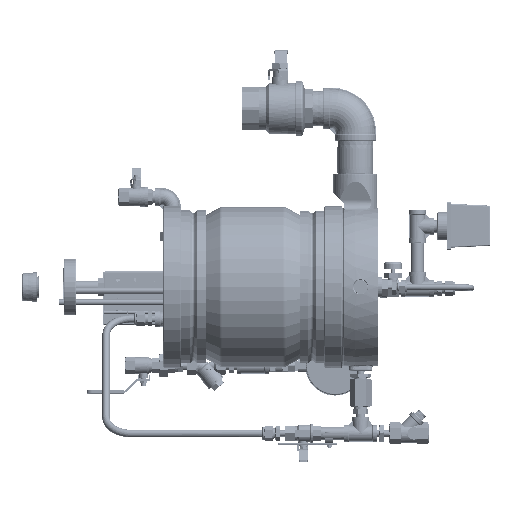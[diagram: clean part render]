
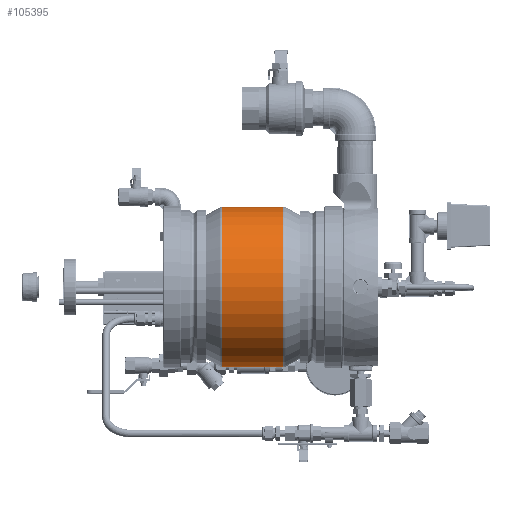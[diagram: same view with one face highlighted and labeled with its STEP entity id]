
A CAD part, top view. The second image highlights one B-rep face of the part: STEP entity #105395.
In plain terms, the highlighted cylindrical face has radius 135 mm (diameter 270 mm), a partial arc.
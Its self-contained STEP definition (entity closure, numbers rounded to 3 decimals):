
#2945=FACE_BOUND('',#18514,.T.);
#7801=B_SPLINE_CURVE_WITH_KNOTS('',3,(#167509,#167510,#167511,#167512,#167513,
#167514,#167515,#167516,#167517,#167518,#167519,#167520,#167521,#167522,
#167523,#167524,#167525,#167526),.UNSPECIFIED.,.F.,.F.,(4,2,2,2,2,2,2,2,
4),(2.111,2.639,3.167,3.694,
4.222,4.75,5.278,5.805,6.333),
 .UNSPECIFIED.);
#7802=B_SPLINE_CURVE_WITH_KNOTS('',3,(#167529,#167530,#167531,#167532,#167533,
#167534,#167535,#167536,#167537,#167538,#167539,#167540,#167541,#167542,
#167543,#167544,#167545,#167546,#167547),.UNSPECIFIED.,.F.,.F.,(4,2,2,2,
3,2,2,2,4),(6.333,6.861,7.389,7.917,
8.444,8.972,9.5,10.028,10.555),
 .UNSPECIFIED.);
#11991=FACE_OUTER_BOUND('',#18513,.T.);
#18513=EDGE_LOOP('',(#78836,#78837,#78838,#78839,#78840,#78841,#78842,#78843,
#78844,#78845,#78846,#78847));
#18514=EDGE_LOOP('',(#78848,#78849,#78850,#78851,#78852,#78853));
#24763=CIRCLE('',#113951,135.);
#24764=CIRCLE('',#113952,135.);
#24767=CIRCLE('',#113957,135.);
#24768=CIRCLE('',#113958,135.);
#29875=LINE('',#167448,#37002);
#29876=LINE('',#167450,#37003);
#29877=LINE('',#167452,#37004);
#29878=LINE('',#167454,#37005);
#29879=LINE('',#167456,#37006);
#29880=LINE('',#167458,#37007);
#29881=LINE('',#167460,#37008);
#29882=LINE('',#167464,#37009);
#29885=LINE('',#167528,#37012);
#29886=LINE('',#167549,#37013);
#37002=VECTOR('',#132220,135.);
#37003=VECTOR('',#132221,10.);
#37004=VECTOR('',#132222,135.);
#37005=VECTOR('',#132223,10.);
#37006=VECTOR('',#132224,135.);
#37007=VECTOR('',#132225,10.);
#37008=VECTOR('',#132226,135.);
#37009=VECTOR('',#132229,135.);
#37012=VECTOR('',#132284,10.);
#37013=VECTOR('',#132285,10.);
#45199=VERTEX_POINT('',#167446);
#45200=VERTEX_POINT('',#167447);
#45201=VERTEX_POINT('',#167449);
#45202=VERTEX_POINT('',#167451);
#45203=VERTEX_POINT('',#167453);
#45204=VERTEX_POINT('',#167455);
#45205=VERTEX_POINT('',#167457);
#45206=VERTEX_POINT('',#167459);
#45207=VERTEX_POINT('',#167461);
#45208=VERTEX_POINT('',#167463);
#45219=VERTEX_POINT('',#167493);
#45222=VERTEX_POINT('',#167504);
#45223=VERTEX_POINT('',#167507);
#45224=VERTEX_POINT('',#167508);
#45225=VERTEX_POINT('',#167527);
#45226=VERTEX_POINT('',#167548);
#57151=EDGE_CURVE('',#45199,#45200,#29875,.T.);
#57152=EDGE_CURVE('',#45201,#45199,#29876,.T.);
#57153=EDGE_CURVE('',#45202,#45201,#29877,.T.);
#57154=EDGE_CURVE('',#45203,#45202,#29878,.T.);
#57155=EDGE_CURVE('',#45204,#45203,#29879,.T.);
#57156=EDGE_CURVE('',#45205,#45204,#29880,.T.);
#57157=EDGE_CURVE('',#45206,#45205,#29881,.T.);
#57159=EDGE_CURVE('',#45208,#45207,#29882,.T.);
#57175=EDGE_CURVE('',#45219,#45200,#24763,.T.);
#57176=EDGE_CURVE('',#45208,#45219,#24764,.T.);
#57180=EDGE_CURVE('',#45222,#45207,#24767,.T.);
#57181=EDGE_CURVE('',#45206,#45222,#24768,.T.);
#57182=EDGE_CURVE('',#45223,#45224,#7801,.T.);
#57183=EDGE_CURVE('',#45224,#45225,#29885,.T.);
#57184=EDGE_CURVE('',#45224,#45223,#7802,.T.);
#57185=EDGE_CURVE('',#45226,#45223,#29886,.T.);
#78836=ORIENTED_EDGE('',*,*,#57151,.T.);
#78837=ORIENTED_EDGE('',*,*,#57175,.F.);
#78838=ORIENTED_EDGE('',*,*,#57176,.F.);
#78839=ORIENTED_EDGE('',*,*,#57159,.T.);
#78840=ORIENTED_EDGE('',*,*,#57180,.F.);
#78841=ORIENTED_EDGE('',*,*,#57181,.F.);
#78842=ORIENTED_EDGE('',*,*,#57157,.T.);
#78843=ORIENTED_EDGE('',*,*,#57156,.T.);
#78844=ORIENTED_EDGE('',*,*,#57155,.T.);
#78845=ORIENTED_EDGE('',*,*,#57154,.T.);
#78846=ORIENTED_EDGE('',*,*,#57153,.T.);
#78847=ORIENTED_EDGE('',*,*,#57152,.T.);
#78848=ORIENTED_EDGE('',*,*,#57182,.T.);
#78849=ORIENTED_EDGE('',*,*,#57183,.T.);
#78850=ORIENTED_EDGE('',*,*,#57183,.F.);
#78851=ORIENTED_EDGE('',*,*,#57184,.T.);
#78852=ORIENTED_EDGE('',*,*,#57185,.F.);
#78853=ORIENTED_EDGE('',*,*,#57185,.T.);
#96423=CYLINDRICAL_SURFACE('',#113956,135.);
#105395=ADVANCED_FACE('',(#11991,#2945),#96423,.T.);
#113951=AXIS2_PLACEMENT_3D('',#167495,#132267,#132268);
#113952=AXIS2_PLACEMENT_3D('',#167496,#132269,#132270);
#113956=AXIS2_PLACEMENT_3D('',#167503,#132278,#132279);
#113957=AXIS2_PLACEMENT_3D('',#167505,#132280,#132281);
#113958=AXIS2_PLACEMENT_3D('',#167506,#132282,#132283);
#132220=DIRECTION('',(-1.,0.,0.));
#132221=DIRECTION('',(-1.,0.,0.));
#132222=DIRECTION('',(-1.,0.,0.));
#132223=DIRECTION('',(-1.,0.,0.));
#132224=DIRECTION('',(-1.,0.,0.));
#132225=DIRECTION('',(-1.,0.,0.));
#132226=DIRECTION('',(-1.,0.,0.));
#132229=DIRECTION('',(1.,0.,0.));
#132267=DIRECTION('center_axis',(-1.,0.,0.));
#132268=DIRECTION('ref_axis',(0.,-1.,0.));
#132269=DIRECTION('center_axis',(-1.,0.,0.));
#132270=DIRECTION('ref_axis',(0.,-1.,0.));
#132278=DIRECTION('center_axis',(-1.,0.,0.));
#132279=DIRECTION('ref_axis',(0.,0.793,0.609));
#132280=DIRECTION('center_axis',(1.,0.,0.));
#132281=DIRECTION('ref_axis',(0.,-1.,0.));
#132282=DIRECTION('center_axis',(1.,0.,0.));
#132283=DIRECTION('ref_axis',(0.,-1.,0.));
#132284=DIRECTION('',(-1.,0.,0.));
#132285=DIRECTION('',(-1.,0.,0.));
#167446=CARTESIAN_POINT('',(267.353,376.58,567.089));
#167447=CARTESIAN_POINT('',(233.48,376.58,567.089));
#167448=CARTESIAN_POINT('',(284.853,376.58,567.089));
#167449=CARTESIAN_POINT('',(272.864,376.58,567.089));
#167450=CARTESIAN_POINT('',(284.853,376.58,567.089));
#167451=CARTESIAN_POINT('',(277.842,376.58,567.089));
#167452=CARTESIAN_POINT('',(284.853,376.58,567.089));
#167453=CARTESIAN_POINT('',(291.864,376.58,567.089));
#167454=CARTESIAN_POINT('',(284.853,376.58,567.089));
#167455=CARTESIAN_POINT('',(296.842,376.58,567.089));
#167456=CARTESIAN_POINT('',(284.853,376.58,567.089));
#167457=CARTESIAN_POINT('',(302.353,376.58,567.089));
#167458=CARTESIAN_POINT('',(284.853,376.58,567.089));
#167459=CARTESIAN_POINT('',(336.225,376.58,567.089));
#167460=CARTESIAN_POINT('',(284.853,376.58,567.089));
#167461=CARTESIAN_POINT('',(336.225,348.683,649.272));
#167463=CARTESIAN_POINT('',(233.48,348.683,649.272));
#167464=CARTESIAN_POINT('',(284.853,348.683,649.272));
#167493=CARTESIAN_POINT('',(233.48,483.683,514.272));
#167495=CARTESIAN_POINT('Origin',(233.48,483.683,649.272));
#167496=CARTESIAN_POINT('Origin',(233.48,483.683,649.272));
#167503=CARTESIAN_POINT('Origin',(284.853,483.683,649.272));
#167504=CARTESIAN_POINT('',(336.225,483.683,514.272));
#167505=CARTESIAN_POINT('Origin',(336.225,483.683,649.272));
#167506=CARTESIAN_POINT('Origin',(336.225,483.683,649.272));
#167507=CARTESIAN_POINT('',(298.853,483.683,514.272));
#167508=CARTESIAN_POINT('',(270.853,483.683,514.272));
#167509=CARTESIAN_POINT('Ctrl Pts',(298.853,483.683,514.272));
#167510=CARTESIAN_POINT('Ctrl Pts',(298.853,485.442,514.272));
#167511=CARTESIAN_POINT('Ctrl Pts',(298.501,487.318,514.31));
#167512=CARTESIAN_POINT('Ctrl Pts',(297.072,490.766,514.447));
#167513=CARTESIAN_POINT('Ctrl Pts',(295.994,492.34,514.544));
#167514=CARTESIAN_POINT('Ctrl Pts',(293.51,494.824,514.727));
#167515=CARTESIAN_POINT('Ctrl Pts',(291.936,495.902,514.824));
#167516=CARTESIAN_POINT('Ctrl Pts',(288.487,497.331,514.962));
#167517=CARTESIAN_POINT('Ctrl Pts',(286.612,497.683,515.));
#167518=CARTESIAN_POINT('Ctrl Pts',(283.093,497.683,515.));
#167519=CARTESIAN_POINT('Ctrl Pts',(281.218,497.331,514.962));
#167520=CARTESIAN_POINT('Ctrl Pts',(277.769,495.902,514.824));
#167521=CARTESIAN_POINT('Ctrl Pts',(276.195,494.824,514.727));
#167522=CARTESIAN_POINT('Ctrl Pts',(273.711,492.34,514.544));
#167523=CARTESIAN_POINT('Ctrl Pts',(272.634,490.766,514.447));
#167524=CARTESIAN_POINT('Ctrl Pts',(271.204,487.318,514.31));
#167525=CARTESIAN_POINT('Ctrl Pts',(270.853,485.442,514.272));
#167526=CARTESIAN_POINT('Ctrl Pts',(270.853,483.683,514.272));
#167527=CARTESIAN_POINT('',(269.853,483.683,514.272));
#167528=CARTESIAN_POINT('',(284.853,483.683,514.272));
#167529=CARTESIAN_POINT('Ctrl Pts',(270.853,483.683,514.272));
#167530=CARTESIAN_POINT('Ctrl Pts',(270.853,481.923,514.272));
#167531=CARTESIAN_POINT('Ctrl Pts',(271.204,480.048,514.31));
#167532=CARTESIAN_POINT('Ctrl Pts',(272.634,476.599,514.447));
#167533=CARTESIAN_POINT('Ctrl Pts',(273.711,475.025,514.544));
#167534=CARTESIAN_POINT('Ctrl Pts',(276.195,472.541,514.727));
#167535=CARTESIAN_POINT('Ctrl Pts',(277.769,471.464,514.824));
#167536=CARTESIAN_POINT('Ctrl Pts',(281.218,470.035,514.962));
#167537=CARTESIAN_POINT('Ctrl Pts',(283.093,469.683,515.));
#167538=CARTESIAN_POINT('Ctrl Pts',(284.853,469.683,515.));
#167539=CARTESIAN_POINT('Ctrl Pts',(286.612,469.683,515.));
#167540=CARTESIAN_POINT('Ctrl Pts',(288.487,470.035,514.962));
#167541=CARTESIAN_POINT('Ctrl Pts',(291.936,471.464,514.824));
#167542=CARTESIAN_POINT('Ctrl Pts',(293.51,472.541,514.727));
#167543=CARTESIAN_POINT('Ctrl Pts',(295.994,475.025,514.544));
#167544=CARTESIAN_POINT('Ctrl Pts',(297.072,476.599,514.447));
#167545=CARTESIAN_POINT('Ctrl Pts',(298.501,480.048,514.31));
#167546=CARTESIAN_POINT('Ctrl Pts',(298.853,481.923,514.272));
#167547=CARTESIAN_POINT('Ctrl Pts',(298.853,483.683,514.272));
#167548=CARTESIAN_POINT('',(299.853,483.683,514.272));
#167549=CARTESIAN_POINT('',(284.853,483.683,514.272));
